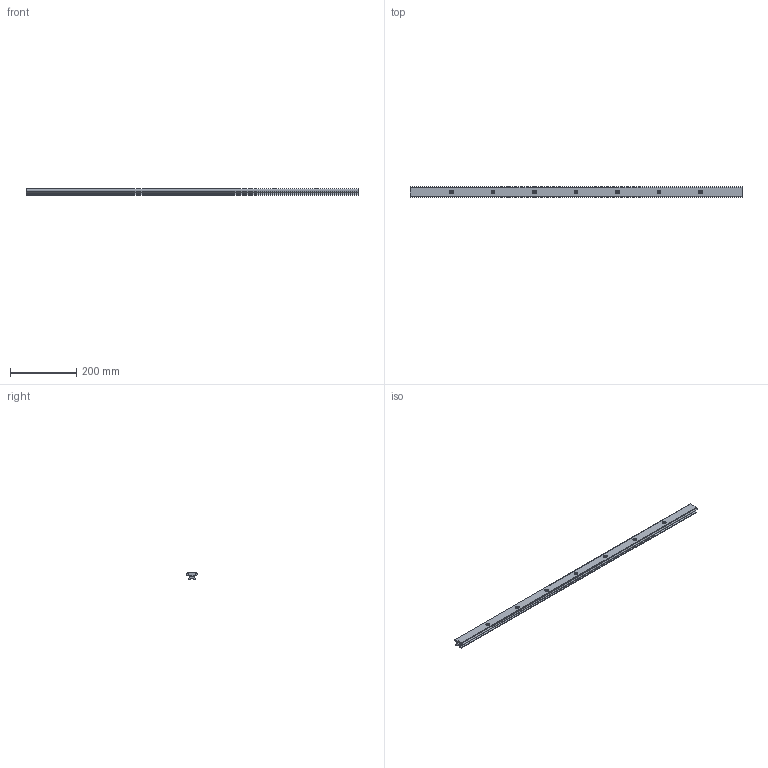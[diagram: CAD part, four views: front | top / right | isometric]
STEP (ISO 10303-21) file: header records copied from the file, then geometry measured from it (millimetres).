
FILE_DESCRIPTION(/* description */ ('Unknown'),/* implementation_level */ '2;1');
FILE_NAME(/* name */ 'Schiene_HLF32_1000',/* time_stamp */ '2022-01-26T20:42:22+01:00',/* author */ ('Unknown'),/* organization */ ('Unknown'),/* preprocessor_version */ 'ST-DEVELOPER v16.7',/* originating_system */ 'Solid Edge',/* authorisation */ 'Unknown');
FILE_SCHEMA (('AUTOMOTIVE_DESIGN {1 0 10303 214 3 1 1}'));
Length unit declared in the file: millimetre
Products named in the file (6): Schiene_HLF32_1000; HLF32_Profil_oben_1000_gebohrt; Welle_Dm_6-1000_lang; din_7984_10_9_m_6x12; HLF32_Profil_unten-1000; mutter_din_557-m6_m_5
Assembly tree (18 placements, depth 2):
  Schiene_HLF32_1000
    HLF32_Profil_oben_1000_gebohrt
    Welle_Dm_6-1000_lang  x2
    din_7984_10_9_m_6x12  x7
    HLF32_Profil_unten-1000
    mutter_din_557-m6_m_5  x7
Bounding box: 1000 x 32.01 x 20.01 mm (x, y, z)
Volume: 409893.3 mm3; surface area: 223772.6 mm2
Topology: 18 solids, 18 shells, 322 faces, 753 edges, 495 vertices
Faces by surface type: plane 201, cylinder 86, cone 28, torus 7
Full cylindrical faces by diameter (mm): 4.918 x7, 6 x16, 6.6 x1, 7 x6, 10 x7, 12 x7
Entity records: 4382 total; most frequent: DIRECTION 771, CARTESIAN_POINT 719, ORIENTED_EDGE 656, EDGE_CURVE 328, AXIS2_PLACEMENT_3D 285, VERTEX_POINT 233, LINE 201, VECTOR 201
